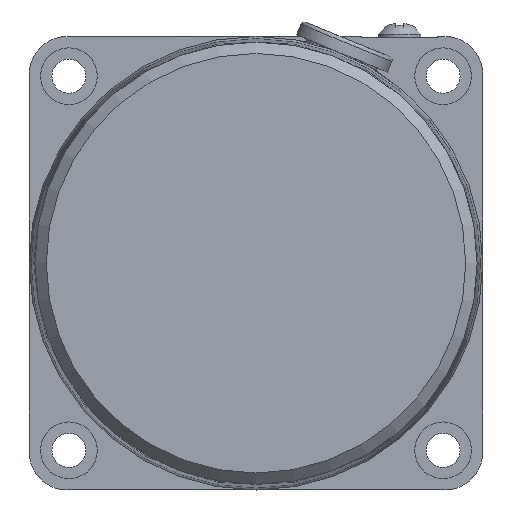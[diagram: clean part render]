
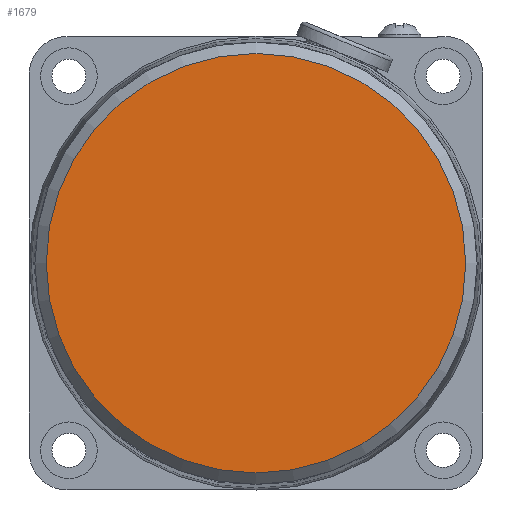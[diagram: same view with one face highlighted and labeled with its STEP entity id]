
A CAD part, left-side view. The second image highlights one B-rep face of the part: STEP entity #1679.
In plain terms, the highlighted planar face has unit normal (-1, 0, 0).
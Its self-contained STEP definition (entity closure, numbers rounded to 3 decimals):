
#100=CIRCLE('',#1800,27.75);
#204=FACE_OUTER_BOUND('',#307,.T.);
#307=EDGE_LOOP('',(#1144));
#711=VERTEX_POINT('',#2573);
#884=EDGE_CURVE('',#711,#711,#100,.T.);
#1144=ORIENTED_EDGE('',*,*,#884,.F.);
#1513=PLANE('',#1801);
#1679=ADVANCED_FACE('',(#204),#1513,.T.);
#1800=AXIS2_PLACEMENT_3D('',#2574,#2039,#2040);
#1801=AXIS2_PLACEMENT_3D('',#2575,#2041,#2042);
#2039=DIRECTION('center_axis',(1.,0.,0.));
#2040=DIRECTION('ref_axis',(0.,1.,0.));
#2041=DIRECTION('center_axis',(-1.,0.,0.));
#2042=DIRECTION('ref_axis',(0.,0.,1.));
#2573=CARTESIAN_POINT('',(0.,27.75,0.));
#2574=CARTESIAN_POINT('Origin',(0.,0.,0.));
#2575=CARTESIAN_POINT('Origin',(0.,13.875,0.));
